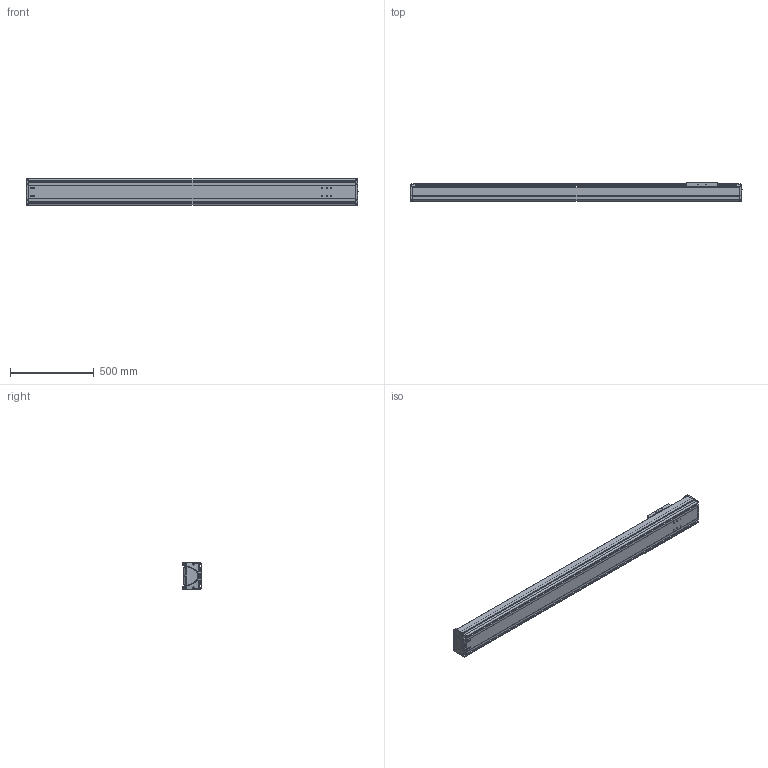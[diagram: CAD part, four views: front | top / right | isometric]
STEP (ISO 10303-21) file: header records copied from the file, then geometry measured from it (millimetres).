
FILE_DESCRIPTION((''),'2;1');
FILE_NAME('BE50G-ST-M_N-G0_IGS_PRT','2017-06-18T',(' '),(''),'PRO/ENGINEER BY PARAMETRIC TECHNOLOGY CORPORATION, 2015030','PRO/ENGINEER BY PARAMETRIC TECHNOLOGY CORPORATION, 2015030','');
FILE_SCHEMA(('CONFIG_CONTROL_DESIGN'));
Length unit declared in the file: millimetre
Products named in the file (1): BE50G-ST-M_N-G0_IGS_PRT
Bounding box: 1979.98 x 110 x 160 mm (x, y, z)
Volume: 8111731.8 mm3; surface area: 2949748.2 mm2
Topology: 3 solids, 114 shells, 1764 faces, 4738 edges, 3065 vertices
Faces by surface type: cylinder 830, plane 613, bspline 102, cone 92, torus 87, sphere 40
Entity records: 61384 total; most frequent: CARTESIAN_POINT 17779, ORIENTED_EDGE 8982, DIRECTION 8860, EDGE_CURVE 4710, AXIS2_PLACEMENT_3D 3344, VERTEX_POINT 3057, VECTOR 2172, LINE 2172
